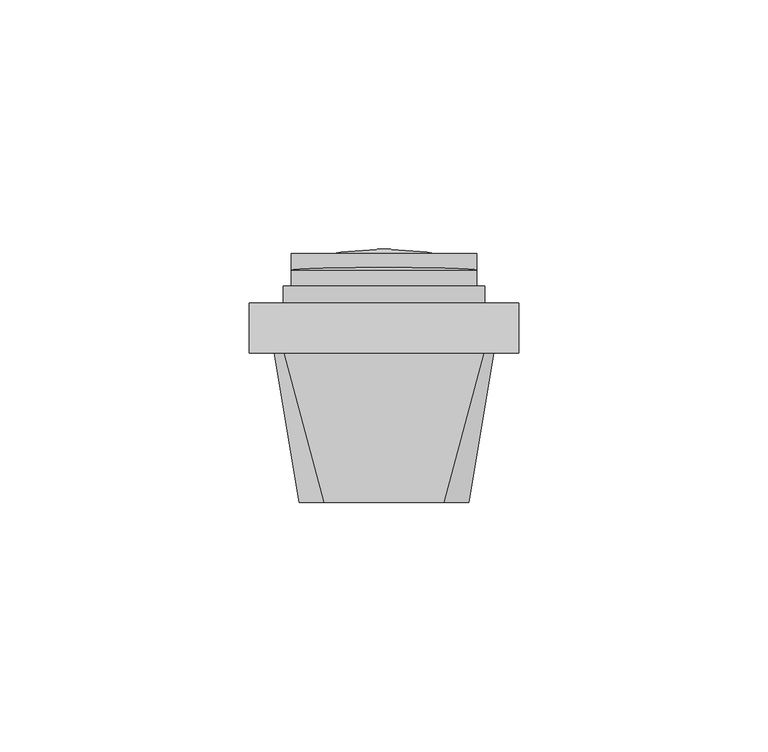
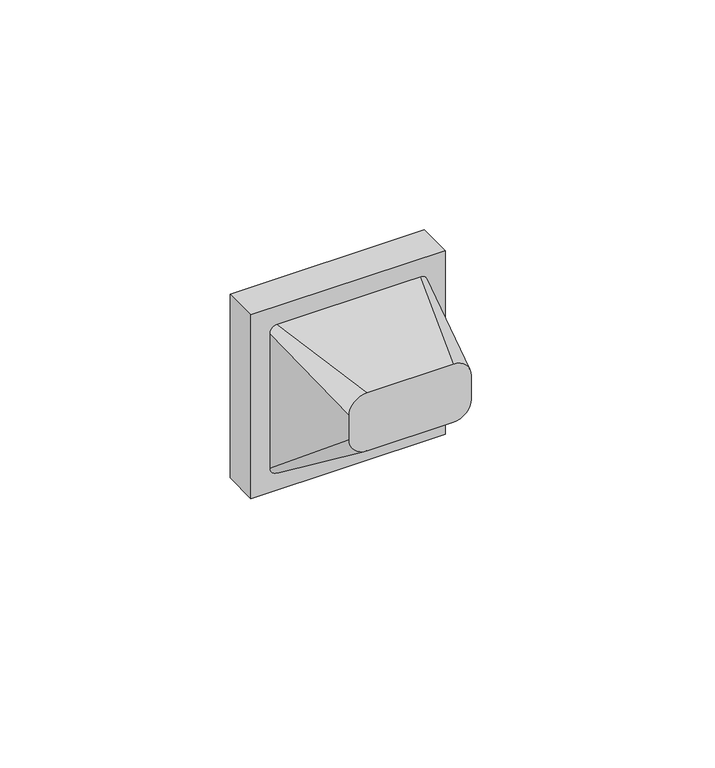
"""IFC4 building model written with IfcOpenShell, lengths in millimetres: proxy geometry, IEK_Brite_Механизм свето-терморегулятора : ВР_СС10-1-0-БрА."""

import ifcopenshell
import ifcopenshell.guid

model = None  # the IFC model being written
_history = None  # IfcOwnerHistory: only IFC2X3 demands one
_inside = {}  # id of a spatial element -> (the spatial element, [elements in it])
_under = {}  # id of a project, library or spatial element -> (it, [spatial elements below it])
_declared = {}  # id of a project -> (the project, [libraries it declares])
_typed = {}  # id of a type object -> (the type object, [elements of that type])
_made_of = {}  # id of a material, layer set ... -> (it, [elements and type objects made of it])


def new_model(schema):
    """Start an empty IFC model of exactly this schema.

    Asked for "IFC4X3", IfcOpenShell would pick the latest addendum, in which some entities
    have other attributes; the version numbers below select the first issue.
    IFC2X3 requires an IfcOwnerHistory on every rooted entity: one is made here for all.
    """
    global model, _history
    if schema == "IFC4X3":
        model = ifcopenshell.file(schema_version=(4, 3, 0, 0))
    else:
        model = ifcopenshell.file(schema=schema)
    _inside.clear()
    _under.clear()
    _declared.clear()
    _typed.clear()
    _made_of.clear()
    _history = None
    if model.schema == "IFC2X3":
        org = make("IfcOrganization", Name="unknown")
        user = make(
            "IfcPersonAndOrganization",
            ThePerson=make("IfcPerson", FamilyName="unknown"),
            TheOrganization=org,
        )
        app = make(
            "IfcApplication",
            ApplicationDeveloper=org,
            Version="unknown",
            ApplicationFullName="unknown",
            ApplicationIdentifier="unknown",
        )
        _history = make(
            "IfcOwnerHistory",
            OwningUser=user,
            OwningApplication=app,
            ChangeAction="ADDED",
            CreationDate=0,
        )
    return model


def make(cls, **values):
    """One entity of the class cls with the attributes given. An attribute that is None is left unset."""
    return model.create_entity(
        cls, **{name: value for name, value in values.items() if value is not None}
    )


def rooted(cls, **values):
    """An entity with a GlobalId (a new one), such as an element, a storey or a relation."""
    return make(cls, GlobalId=ifcopenshell.guid.new(), OwnerHistory=_history, **values)


def si_unit(unit_type, name, prefix=None):
    """IfcSIUnit, for example si_unit("LENGTHUNIT", "METRE", prefix="MILLI")."""
    return make("IfcSIUnit", UnitType=unit_type, Prefix=prefix, Name=name)


def assignment(units):
    """IfcUnitAssignment: the units of a project."""
    return None if units is None else make("IfcUnitAssignment", Units=units)


def point(xyz):
    """IfcCartesianPoint."""
    return None if xyz is None else make("IfcCartesianPoint", Coordinates=xyz)


def direction(xyz):
    """IfcDirection."""
    return None if xyz is None else make("IfcDirection", DirectionRatios=xyz)


def frame(location, z_axis=None, x_axis=None):
    """IfcAxis2Placement3D, a coordinate frame: its origin and axes. An axis left out is left unset."""
    return make(
        "IfcAxis2Placement3D",
        Location=point(location),
        Axis=direction(z_axis),
        RefDirection=direction(x_axis),
    )


def frame_2d(location, x_axis=None):
    """IfcAxis2Placement2D, a coordinate frame in the plane: its origin and x axis."""
    return make(
        "IfcAxis2Placement2D", Location=point(location), RefDirection=direction(x_axis)
    )


def origin():
    """The frame at (0, 0, 0) with its axes left unset."""
    return frame((0.0, 0.0, 0.0))


def place(relative_to, where):
    """IfcLocalPlacement: puts the frame where relative to a parent placement (None: the world)."""
    return make(
        "IfcLocalPlacement", PlacementRelTo=relative_to, RelativePlacement=where
    )


def context(
    kind, dimensions, precision=None, world=None, true_north=None, identifier=None
):
    """IfcGeometricRepresentationContext, for example the 3D "Model" context."""
    return make(
        "IfcGeometricRepresentationContext",
        ContextIdentifier=identifier,
        ContextType=kind,
        CoordinateSpaceDimension=dimensions,
        Precision=precision,
        WorldCoordinateSystem=world,
        TrueNorth=true_north,
    )


def project(units=None, contexts=None):
    """IfcProject with its units and contexts."""
    return rooted(
        "IfcProject",
        Name="project",
        RepresentationContexts=contexts,
        UnitsInContext=assignment(units),
    )


def spatial(cls, under=None, at=None, **own):
    """A site, building, storey or space (cls), placed at a placement, below another one or the project."""
    s = rooted(cls, ObjectPlacement=at, **own)
    if under is not None:
        _under.setdefault(under.id(), (under, []))[1].append(s)
    return s


def polyline(points):
    """IfcPolyline through the points."""
    return make("IfcPolyline", Points=[point(p) for p in points])


def circle_curve(where, radius):
    """IfcCircle in the frame where."""
    return make("IfcCircle", Position=where, Radius=radius)


def ellipse_curve(where, semi_axis1, semi_axis2):
    """IfcEllipse in the frame where."""
    return make(
        "IfcEllipse", Position=where, SemiAxis1=semi_axis1, SemiAxis2=semi_axis2
    )


def trimmed(basis, trim1, trim2, sense, master):
    """IfcTrimmedCurve: the piece of a basis curve between two trims."""
    return make(
        "IfcTrimmedCurve",
        BasisCurve=basis,
        Trim1=trim1,
        Trim2=trim2,
        SenseAgreement=sense,
        MasterRepresentation=master,
    )


def segment(curve, same_sense, transition):
    """IfcCompositeCurveSegment."""
    return make(
        "IfcCompositeCurveSegment",
        Transition=transition,
        SameSense=same_sense,
        ParentCurve=curve,
    )


def composite_curve(segments, self_intersect=None):
    """IfcCompositeCurve: segments joined end to end."""
    return make("IfcCompositeCurve", Segments=segments, SelfIntersect=self_intersect)


def outline(outer, holes=None, kind="AREA"):
    """IfcArbitraryClosedProfileDef: a profile drawn as a closed curve; with holes, ...WithVoids."""
    if holes is None:
        return make("IfcArbitraryClosedProfileDef", ProfileType=kind, OuterCurve=outer)
    return make(
        "IfcArbitraryProfileDefWithVoids",
        ProfileType=kind,
        OuterCurve=outer,
        InnerCurves=holes,
    )


def extrude(swept, where, along, depth):
    """IfcExtrudedAreaSolid: the profile swept, set in the frame where, extruded along a direction by depth."""
    return make(
        "IfcExtrudedAreaSolid",
        SweptArea=swept,
        Position=where,
        ExtrudedDirection=direction(along),
        Depth=depth,
    )


def shape(context_of_items, identifier, shape_type, items):
    """IfcShapeRepresentation: the items that make up one representation, for example the "Body"."""
    return make(
        "IfcShapeRepresentation",
        ContextOfItems=context_of_items,
        RepresentationIdentifier=identifier,
        RepresentationType=shape_type,
        Items=items,
    )


def source(mapping_origin, context_of_items, identifier, shape_type, items):
    """IfcRepresentationMap: a shape defined once, which mapped items show again and again."""
    return make(
        "IfcRepresentationMap",
        MappingOrigin=mapping_origin,
        MappedRepresentation=shape(context_of_items, identifier, shape_type, items),
    )


def transform(
    local_origin,
    x_axis=None,
    y_axis=None,
    z_axis=None,
    scale=None,
    scale2=None,
    scale3=None,
    uniform=True,
):
    """IfcCartesianTransformationOperator3D, or its non-uniform kind. x_axis, y_axis, z_axis: its Axis1, 2, 3."""
    if uniform:
        return make(
            "IfcCartesianTransformationOperator3D",
            Axis1=direction(x_axis),
            Axis2=direction(y_axis),
            LocalOrigin=point(local_origin),
            Scale=scale,
            Axis3=direction(z_axis),
        )
    return make(
        "IfcCartesianTransformationOperator3DnonUniform",
        Axis1=direction(x_axis),
        Axis2=direction(y_axis),
        LocalOrigin=point(local_origin),
        Scale=scale,
        Axis3=direction(z_axis),
        Scale2=scale2,
        Scale3=scale3,
    )


def mapped(mapping_source, mapping_target):
    """IfcMappedItem: shows the shape of a source again, moved by a transform."""
    return make(
        "IfcMappedItem", MappingSource=mapping_source, MappingTarget=mapping_target
    )


def made_of(thing, what):
    """Note that an element or type object is made of a material, layer set ...; save() writes the relation."""
    if what is not None:
        _made_of.setdefault(what.id(), (what, []))[1].append(thing)
    return thing


def element(
    cls,
    number,
    at=None,
    inside=None,
    cuts=None,
    type_object=None,
    material=None,
    context=None,
    identifier="Body",
    shape_type=None,
    held_by="IfcProductDefinitionShape",
    body=None,
    shapes=None,
    **own,
):
    """One element of the class cls, such as IfcWall. Its Tag is "e" and its number.

    at: its placement. inside: the storey or other place that contains it. cuts: it is an
    opening in that element (IfcRelVoidsElement). A single representation is given by context,
    identifier, shape_type and body (its items); several are given by shapes. held_by: the class
    of the entity that holds the representations. save() writes the other relations.
    """
    e = rooted(cls, Tag="e%d" % number, ObjectPlacement=at, **own)
    if body is not None:
        shapes = [shape(context, identifier, shape_type, body)]
    if shapes is not None:
        e.Representation = make(held_by, Representations=shapes)
    if inside is not None:
        _inside.setdefault(inside.id(), (inside, []))[1].append(e)
    if cuts is not None:
        rooted(
            "IfcRelVoidsElement", RelatingBuildingElement=cuts, RelatedOpeningElement=e
        )
    if type_object is not None:
        _typed.setdefault(type_object.id(), (type_object, []))[1].append(e)
    return made_of(e, material)


def aggregate(whole, parts):
    """IfcRelAggregates: a whole, such as a stair, and the parts it consists of."""
    return rooted("IfcRelAggregates", RelatingObject=whole, RelatedObjects=parts)


def save(model, path):
    """Write the relations noted so far, then the file.

    IfcRelAggregates (storeys below a building ...), IfcRelContainedInSpatialStructure (elements
    in a storey), IfcRelDefinesByType, IfcRelAssociatesMaterial and IfcRelDeclares: one each for
    every whole, place, type object, material and project.
    """
    for whole, parts in _under.values():
        aggregate(whole, parts)
    for where, things in _inside.values():
        rooted(
            "IfcRelContainedInSpatialStructure",
            RelatedElements=things,
            RelatingStructure=where,
        )
    for kind, things in _typed.values():
        rooted("IfcRelDefinesByType", RelatedObjects=things, RelatingType=kind)
    for what, things in _made_of.values():
        rooted("IfcRelAssociatesMaterial", RelatedObjects=things, RelatingMaterial=what)
    for by, libraries in _declared.values():
        rooted("IfcRelDeclares", RelatingContext=by, RelatedDefinitions=libraries)
    model.write(path)


def plane_surface(at):
    """IfcPlane: the flat surface through the origin of the frame at, square to its z axis."""
    return make("IfcPlane", Position=at)


def cylinder_surface(at, radius):
    """IfcCylindricalSurface: all points at the distance radius from the z axis of the frame at."""
    return make("IfcCylindricalSurface", Position=at, Radius=radius)


def revolved_surface(curve, axis_point, axis_direction):
    """IfcSurfaceOfRevolution: the curve turned about the line through axis_point along axis_direction."""
    return make(
        "IfcSurfaceOfRevolution",
        SweptCurve=make("IfcArbitraryOpenProfileDef", ProfileType="CURVE", Curve=curve),
        AxisPosition=make("IfcAxis1Placement", Location=point(axis_point), Axis=direction(axis_direction)),
    )


def spline_surface(u_degree, v_degree, points, u_multiplicities, v_multiplicities, u_knots, v_knots, weights=None):
    """IfcBSplineSurfaceWithKnots; with weights, IfcRationalBSplineSurfaceWithKnots. points: one row for each step in u."""
    own = dict(
        UDegree=u_degree,
        VDegree=v_degree,
        ControlPointsList=[[point(p) for p in row] for row in points],
        SurfaceForm="UNSPECIFIED",
        UClosed=False,
        VClosed=False,
        SelfIntersect=False,
        UMultiplicities=u_multiplicities,
        VMultiplicities=v_multiplicities,
        UKnots=u_knots,
        VKnots=v_knots,
        KnotSpec="UNSPECIFIED",
    )
    if weights is None:
        return make("IfcBSplineSurfaceWithKnots", **own)
    return make("IfcRationalBSplineSurfaceWithKnots", WeightsData=weights, **own)


def advanced_brep(points, edges, surfaces, faces):
    """IfcAdvancedBrep: a solid bounded by faces that lie on surfaces and meet in shared edges.

    An edge is (start, end): straight between two places in points (the first is 0);
    or (start, end, curve); or (start, end, curve, False) where it runs against its curve.
    A face is (place in surfaces, loops), or (place, loops, False) where it looks against
    its surface's normal. A loop lists edges by number (the first is 1), with a minus sign
    where the edge is run from its end to its start. The first loop is the outer one.
    """
    corners = [point(p) for p in points]
    vertices = [make("IfcVertexPoint", VertexGeometry=c) for c in corners]
    made = []
    for start, end, *more in edges:
        made.append(
            make(
                "IfcEdgeCurve",
                EdgeStart=vertices[start],
                EdgeEnd=vertices[end],
                EdgeGeometry=more[0] if more else make("IfcPolyline", Points=[corners[start], corners[end]]),
                SameSense=more[1] if len(more) > 1 else True,
            )
        )
    hull = []
    for where, loops, *sense in faces:
        bounds = []
        for j, loop in enumerate(loops):
            ring = [make("IfcOrientedEdge", EdgeElement=made[abs(k) - 1], Orientation=k > 0) for k in loop]
            bounds.append(
                make(
                    "IfcFaceOuterBound" if j == 0 else "IfcFaceBound",
                    Bound=make("IfcEdgeLoop", EdgeList=ring),
                    Orientation=True,
                )
            )
        hull.append(make("IfcAdvancedFace", Bounds=bounds, FaceSurface=surfaces[where], SameSense=sense[0] if sense else True))
    return make("IfcAdvancedBrep", Outer=make("IfcClosedShell", CfsFaces=hull))


def electrical_fixtures_df0d4698(model_context):
    return source(origin(), model_context, "Body", "SolidModel", [
        extrude(outline(composite_curve([segment(trimmed(circle_curve(frame_2d((0.0, 0.003319)), 17.0578704), [point((17.0578704, 0.003319))], [point((-17.0578704, 0.003319))], False, "CARTESIAN"), True, "CONTINUOUS"), segment(trimmed(circle_curve(frame_2d((0.0, 0.003319)), 17.0578704), [point((-17.0578704, 0.003319))], [point((17.0578704, 0.003319))], False, "CARTESIAN"), True, "CONTINUOUS")], self_intersect=False)), frame((0.0, 16.0217188, 0.0), z_axis=(0.0, 1.0, 0.0), x_axis=(0.0, 0.0, 1.0)), (0.0, 0.0, 1.0), 1.3778649),
        advanced_brep(
        [(0.0, 4.3439145, 0.0), (-18.6103946, 4.3439145, 0.0), (18.6103946, 4.3439145, 0.0), (17.0578708, 16.0217188, 0.0), (-17.0578708, 16.0217188, 0.0), (0.0, 16.0217188, 0.0), (17.0578708, 17.3995837, 0.0), (-17.0578708, 17.3995837, 0.0), (17.8535392, 17.3995837, 0.0), (-17.8535392, 17.3995837, 0.0), (18.6103946, 16.6427283, 0.0), (-18.6103946, 16.6427283, 0.0)],
        [
            (0, 1),
            (1, 2, circle_curve(frame((0.0, 4.3439145, 0.0), z_axis=(0.0, -1.0, 0.0), x_axis=(-1.0, 0.0, 0.0)), 18.6103946)),
            (2, 0),
            (2, 1, circle_curve(frame((0.0, 4.3439145, 0.0), z_axis=(0.0, -1.0, 0.0), x_axis=(-1.0, 0.0, 0.0)), 18.6103946)),
            (3, 4, circle_curve(frame((0.0, 16.0217188, 0.0), z_axis=(0.0, 1.0, 0.0), x_axis=(-1.0, 0.0, 0.0)), 17.0578708)),
            (4, 5),
            (5, 3),
            (4, 3, circle_curve(frame((0.0, 16.0217188, 0.0), z_axis=(0.0, 1.0, 0.0), x_axis=(-1.0, 0.0, 0.0)), 17.0578708)),
            (6, 7, circle_curve(frame((0.0, 17.3995837, 0.0), z_axis=(0.0, 1.0, 0.0), x_axis=(-1.0, 0.0, 0.0)), 17.0578708)),
            (7, 4),
            (3, 6),
            (7, 6, circle_curve(frame((0.0, 17.3995837, 0.0), z_axis=(0.0, 1.0, 0.0), x_axis=(-1.0, 0.0, 0.0)), 17.0578708)),
            (8, 9, circle_curve(frame((0.0, 17.3995837, 0.0), z_axis=(0.0, 1.0, 0.0), x_axis=(-1.0, 0.0, 0.0)), 17.8535392)),
            (9, 7),
            (6, 8),
            (9, 8, circle_curve(frame((0.0, 17.3995837, 0.0), z_axis=(0.0, 1.0, 0.0), x_axis=(-1.0, 0.0, 0.0)), 17.8535392)),
            (10, 11, circle_curve(frame((0.0, 16.6427283, 0.0), z_axis=(0.0, 1.0, 0.0), x_axis=(-1.0, 0.0, 0.0)), 18.6103946)),
            (11, 9),
            (8, 10),
            (11, 10, circle_curve(frame((0.0, 16.6427283, 0.0), z_axis=(0.0, 1.0, 0.0), x_axis=(-1.0, 0.0, 0.0)), 18.6103946)),
            (1, 11),
            (10, 2),
        ],
        [
            plane_surface(frame((0.0, 4.3439145, 0.0), z_axis=(0.0, -1.0, 0.0), x_axis=(-1.0, 0.0, 0.0))),
            plane_surface(frame((0.0, 16.0217188, 0.0), z_axis=(0.0, 1.0, 0.0), x_axis=(-1.0, 0.0, 0.0))),
            revolved_surface(polyline([(-17.0578708, 16.0217188, 0.0), (-17.0578708, 17.3995837, 0.0)]), (0.0, 19.2432057, 0.0), (0.0, -1.0, 0.0)),
            plane_surface(frame((0.0, 17.3995837, 0.0), z_axis=(0.0, 1.0, 0.0), x_axis=(-1.0, 0.0, 0.0))),
            revolved_surface(polyline([(-17.8535392, 17.3995837, 0.0), (-18.6103946, 16.6427283, 0.0)]), (0.0, 19.2432057, 0.0), (0.0, -1.0, 0.0)),
            cylinder_surface(frame((0.0, 19.2432057, 0.0), z_axis=(0.0, -1.0, 0.0), x_axis=(-1.0, 0.0, 0.0)), 18.6103946),
        ],
        [
            (0, [[1, 2, 3]]),
            (0, [[-3, 4, -1]]),
            (1, [[5, 6, 7]]),
            (1, [[8, -7, -6]]),
            (2, [[9, 10, -5, 11]]),
            (2, [[12, -11, -8, -10]]),
            (3, [[13, 14, -9, 15]]),
            (3, [[16, -15, -12, -14]]),
            (4, [[17, 18, -13, 19]]),
            (4, [[20, -19, -16, -18]]),
            (5, [[-2, 21, -17, 22]]),
            (5, [[-4, -22, -20, -21]]),
        ],
    ),
        advanced_brep(
        [(-27.0, 10.0, 27.0), (27.0, 10.0, 27.0), (27.0, 10.0, -27.0), (-27.0, 10.0, -27.0), (-19.3454313, 10.0, 0.0), (19.3454313, 10.0, 0.0), (-27.0, 0.0, 27.0), (-27.0, 0.0, -27.0), (27.0, 0.0, -27.0), (27.0, 0.0, 27.0), (19.3454313, 4.3439145, 0.0), (-19.3454313, 4.3439145, 0.0)],
        [
            (0, 1),
            (1, 2),
            (2, 3),
            (3, 0),
            (4, 5, circle_curve(frame((0.0, 10.0, 0.0), z_axis=(0.0, -1.0, 0.0), x_axis=(-1.0, 0.0, 0.0)), 19.3454313)),
            (5, 4, circle_curve(frame((0.0, 10.0, 0.0), z_axis=(0.0, -1.0, 0.0), x_axis=(-1.0, 0.0, 0.0)), 19.3454313)),
            (6, 7),
            (7, 8),
            (8, 9),
            (9, 6),
            (3, 7),
            (6, 0),
            (2, 8),
            (1, 9),
            (10, 11, circle_curve(frame((0.0, 4.3439145, 0.0), z_axis=(0.0, 1.0, 0.0), x_axis=(-1.0, 0.0, 0.0)), 19.3454313)),
            (11, 10, circle_curve(frame((0.0, 4.3439145, 0.0), z_axis=(0.0, 1.0, 0.0), x_axis=(-1.0, 0.0, 0.0)), 19.3454313)),
            (10, 5),
            (4, 11),
        ],
        [
            plane_surface(frame((-27.0, 10.0, -27.0), z_axis=(0.0, 1.0, 0.0), x_axis=(0.0, 0.0, 1.0))),
            plane_surface(frame((-27.0, 0.0, -27.0), z_axis=(0.0, -1.0, 0.0), x_axis=(0.0, 0.0, -1.0))),
            plane_surface(frame((-27.0, 0.0, 27.0), z_axis=(-1.0, 0.0, 0.0), x_axis=(0.0, 1.0, 0.0))),
            plane_surface(frame((-27.0, 0.0, -27.0), z_axis=(0.0, 0.0, -1.0), x_axis=(0.0, 1.0, 0.0))),
            plane_surface(frame((27.0, 0.0, -27.0), z_axis=(1.0, 0.0, 0.0), x_axis=(0.0, 1.0, 0.0))),
            plane_surface(frame((27.0, 0.0, 27.0), z_axis=(0.0, 0.0, 1.0), x_axis=(0.0, 1.0, 0.0))),
            plane_surface(frame((-19.3454313, 4.3439145, 0.0), z_axis=(0.0, 1.0, 0.0), x_axis=(0.0, 0.0, -1.0))),
            revolved_surface(polyline([(-19.3454313, 10.0, 0.0), (-19.3454313, 4.3439145, 0.0)]), (0.0, 4.3439145, 0.0), (0.0, 1.0, 0.0)),
        ],
        [
            (0, [[1, 2, 3, 4], [5, 6]]),
            (1, [[7, 8, 9, 10]]),
            (2, [[-4, 11, -7, 12]]),
            (3, [[-3, 13, -8, -11]]),
            (4, [[-2, 14, -9, -13]]),
            (5, [[-1, -12, -10, -14]]),
            (6, [[15, 16]]),
            (7, [[-15, 17, -5, 18]]),
            (7, [[-16, -18, -6, -17]]),
        ],
    ),
        advanced_brep(
        [(20.1579006, 13.4544349, 0.0), (-20.1579006, 13.4544349, 0.0), (-19.3454313, 13.4544349, 0.0), (19.3454313, 13.4544349, 0.0), (20.1579006, 10.0, 0.0), (-20.1579006, 10.0, 0.0), (19.3454313, 10.0, 0.0), (-19.3454313, 10.0, 0.0)],
        [
            (0, 1, circle_curve(frame((0.0, 13.4544349, 0.0), z_axis=(0.0, 1.0, 0.0), x_axis=(-1.0, 0.0, 0.0)), 20.1579006)),
            (1, 2),
            (2, 3, circle_curve(frame((0.0, 13.4544349, 0.0), z_axis=(0.0, -1.0, 0.0), x_axis=(-1.0, 0.0, 0.0)), 19.3454313)),
            (3, 0),
            (1, 0, circle_curve(frame((0.0, 13.4544349, 0.0), z_axis=(0.0, 1.0, 0.0), x_axis=(-1.0, 0.0, 0.0)), 20.1579006)),
            (3, 2, circle_curve(frame((0.0, 13.4544349, 0.0), z_axis=(0.0, -1.0, 0.0), x_axis=(-1.0, 0.0, 0.0)), 19.3454313)),
            (4, 5, circle_curve(frame((0.0, 10.0, 0.0), z_axis=(0.0, 1.0, 0.0), x_axis=(-1.0, 0.0, 0.0)), 20.1579006)),
            (5, 1),
            (0, 4),
            (5, 4, circle_curve(frame((0.0, 10.0, 0.0), z_axis=(0.0, 1.0, 0.0), x_axis=(-1.0, 0.0, 0.0)), 20.1579006)),
            (6, 7, circle_curve(frame((0.0, 10.0, 0.0), z_axis=(0.0, 1.0, 0.0), x_axis=(-1.0, 0.0, 0.0)), 19.3454313)),
            (7, 5),
            (4, 6),
            (7, 6, circle_curve(frame((0.0, 10.0, 0.0), z_axis=(0.0, 1.0, 0.0), x_axis=(-1.0, 0.0, 0.0)), 19.3454313)),
            (2, 7),
            (6, 3),
        ],
        [
            plane_surface(frame((0.0, 13.4544349, 0.0), z_axis=(0.0, 1.0, 0.0), x_axis=(-1.0, 0.0, 0.0))),
            cylinder_surface(frame((0.0, 21.4805096, 0.0), z_axis=(0.0, -1.0, 0.0), x_axis=(-1.0, 0.0, 0.0)), 20.1579006),
            plane_surface(frame((0.0, 10.0, 0.0), z_axis=(0.0, -1.0, 0.0), x_axis=(-1.0, 0.0, 0.0))),
            revolved_surface(polyline([(-19.3454313, 10.0, 0.0), (-19.3454313, 13.4544349, 0.0)]), (0.0, 21.4805096, 0.0), (0.0, -1.0, 0.0)),
        ],
        [
            (0, [[1, 2, 3, 4]]),
            (0, [[5, -4, 6, -2]]),
            (1, [[7, 8, -1, 9]]),
            (1, [[10, -9, -5, -8]]),
            (2, [[11, 12, -7, 13]]),
            (2, [[14, -13, -10, -12]]),
            (3, [[-3, 15, -11, 16]]),
            (3, [[-6, -16, -14, -15]]),
        ],
    ),
        advanced_brep(
        [(0.0, 4.3439145, 0.0), (-18.6103946, 4.3439145, 0.0), (18.6103946, 4.3439145, 0.0), (18.6103946, 19.8995837, 0.0), (-18.6103946, 19.8995837, 0.0), (-17.7859144, 19.8995837, 0.0), (17.7859144, 19.8995837, 0.0), (17.0578708, 18.5217188, 0.0), (-17.0578708, 18.5217188, 0.0), (0.0, 20.8213947, 0.0)],
        [
            (0, 1),
            (1, 2, circle_curve(frame((0.0, 4.3439145, 0.0), z_axis=(0.0, -1.0, 0.0), x_axis=(-1.0, 0.0, 0.0)), 18.6103946)),
            (2, 0),
            (2, 1, circle_curve(frame((0.0, 4.3439145, 0.0), z_axis=(0.0, -1.0, 0.0), x_axis=(-1.0, 0.0, 0.0)), 18.6103946)),
            (3, 4, circle_curve(frame((0.0, 19.8995837, 0.0), z_axis=(0.0, 1.0, 0.0), x_axis=(-1.0, 0.0, 0.0)), 18.6103946)),
            (4, 5),
            (5, 6, circle_curve(frame((0.0, 19.8995837, 0.0), z_axis=(0.0, -1.0, 0.0), x_axis=(-1.0, 0.0, 0.0)), 17.7859144)),
            (6, 3),
            (4, 3, circle_curve(frame((0.0, 19.8995837, 0.0), z_axis=(0.0, 1.0, 0.0), x_axis=(-1.0, 0.0, 0.0)), 18.6103946)),
            (6, 5, circle_curve(frame((0.0, 19.8995837, 0.0), z_axis=(0.0, -1.0, 0.0), x_axis=(-1.0, 0.0, 0.0)), 17.7859144)),
            (1, 4),
            (3, 2),
            (7, 8, circle_curve(frame((0.0, 18.5217188, 0.0), z_axis=(0.0, 1.0, 0.0), x_axis=(-1.0, 0.0, 0.0)), 17.0578708)),
            (8, 9, circle_curve(frame((0.0, -43.5919141, 0.0), z_axis=(0.0, 0.0, -1.0), x_axis=(1.0, 0.0, 0.0)), 64.4133088)),
            (9, 7, circle_curve(frame((0.0, -43.5919141, 0.0), z_axis=(0.0, 0.0, -1.0), x_axis=(-1.0, 0.0, 0.0)), 64.4133088)),
            (8, 7, circle_curve(frame((0.0, 18.5217188, 0.0), z_axis=(0.0, 1.0, 0.0), x_axis=(-1.0, 0.0, 0.0)), 17.0578708)),
            (5, 8),
            (7, 6),
        ],
        [
            plane_surface(frame((0.0, 4.3439145, 0.0), z_axis=(0.0, -1.0, 0.0), x_axis=(-1.0, 0.0, 0.0))),
            plane_surface(frame((0.0, 19.8995837, 0.0), z_axis=(0.0, 1.0, 0.0), x_axis=(-1.0, 0.0, 0.0))),
            cylinder_surface(frame((0.0, 21.7432057, 0.0), z_axis=(0.0, -1.0, 0.0), x_axis=(-1.0, 0.0, 0.0)), 18.6103946),
            revolved_surface(trimmed(ellipse_curve(frame((0.0, -43.5919141, 0.0), z_axis=(0.0, 0.0, 1.0), x_axis=(1.0, 0.0, 0.0)), 64.4133088, 64.4133088), [point((0.0, 20.8213947, 0.0))], [point((-17.0578708, 18.5217188, 0.0))], True, "CARTESIAN"), (0.0, 21.7432057, 0.0), (0.0, -1.0, 0.0)),
            revolved_surface(polyline([(-17.0578708, 18.5217188, 0.0), (-17.7859144, 19.8995837, 0.0)]), (0.0, 21.7432057, 0.0), (0.0, -1.0, 0.0)),
        ],
        [
            (0, [[1, 2, 3]]),
            (0, [[-3, 4, -1]]),
            (1, [[5, 6, 7, 8]]),
            (1, [[9, -8, 10, -6]]),
            (2, [[-2, 11, -5, 12]]),
            (2, [[-4, -12, -9, -11]]),
            (3, [[13, 14, 15]]),
            (3, [[16, -15, -14]]),
            (4, [[-7, 17, -13, 18]]),
            (4, [[-10, -18, -16, -17]]),
        ],
    ),
        advanced_brep(
        [(-12.0, -30.0, 17.0), (-17.0, -30.0, 12.0), (-17.0, -30.0, 5.0), (-12.0, -30.0, 0.0), (12.0, -30.0, 0.0), (17.0, -30.0, 5.0), (17.0, -30.0, 12.0), (12.0, -30.0, 17.0), (-20.0, 0.0, 22.0), (20.0, 0.0, 22.0), (22.0, 0.0, 20.0), (22.0, 0.0, -20.0), (20.0, 0.0, -22.0), (-20.0, 0.0, -22.0), (-22.0, 0.0, -20.0), (-22.0, 0.0, 20.0)],
        [
            (0, 1, circle_curve(frame((-12.0, -30.0, 12.0), z_axis=(0.0, -1.0, 0.0), x_axis=(1.0, 0.0, 0.0)), 5.0)),
            (1, 2),
            (2, 3, circle_curve(frame((-12.0, -30.0, 5.0), z_axis=(0.0, -1.0, 0.0), x_axis=(1.0, 0.0, 0.0)), 5.0)),
            (3, 4),
            (4, 5, circle_curve(frame((12.0, -30.0, 5.0), z_axis=(0.0, -1.0, 0.0), x_axis=(1.0, 0.0, 0.0)), 5.0)),
            (5, 6),
            (6, 7, circle_curve(frame((12.0, -30.0, 12.0), z_axis=(0.0, -1.0, 0.0), x_axis=(1.0, 0.0, 0.0)), 5.0)),
            (7, 0),
            (8, 9),
            (9, 10, circle_curve(frame((20.0, 0.0, 20.0), z_axis=(0.0, 1.0, 0.0), x_axis=(1.0, 0.0, 0.0)), 2.0)),
            (10, 11),
            (11, 12, circle_curve(frame((20.0, 0.0, -20.0), z_axis=(0.0, 1.0, 0.0), x_axis=(1.0, 0.0, 0.0)), 2.0)),
            (12, 13),
            (13, 14, circle_curve(frame((-20.0, 0.0, -20.0), z_axis=(0.0, 1.0, 0.0), x_axis=(1.0, 0.0, 0.0)), 2.0)),
            (14, 15),
            (15, 8, circle_curve(frame((-20.0, 0.0, 20.0), z_axis=(0.0, 1.0, 0.0), x_axis=(1.0, 0.0, 0.0)), 2.0)),
            (8, 0),
            (7, 9),
            (6, 10),
            (5, 11),
            (4, 12),
            (3, 13),
            (2, 14),
            (1, 15),
        ],
        [
            plane_surface(frame((0.0, -30.0, 8.5), z_axis=(0.0, -1.0, 0.0), x_axis=(-1.0, 0.0, 0.0))),
            plane_surface(frame((0.0, 0.0, 0.0), z_axis=(0.0, 1.0, 0.0), x_axis=(-1.0, 0.0, 0.0))),
            plane_surface(frame((0.0, 0.0, 22.0), z_axis=(0.0, -0.16439898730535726, 0.9863939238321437), x_axis=(-1.0, 0.0, 0.0))),
            spline_surface(2, 1, [[(22.0, 0.0, 20.0), (17.0, -30.0, 12.0)], [(22.0, 0.0, 22.0), (17.0, -30.0, 17.0)], [(20.0, 0.0, 22.0), (12.0, -30.0, 17.0)]], [3, 3], [2, 2], [0.0, 1.0], [0.0, 1.0], weights=[[1.0, 1.0], [0.7071067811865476, 0.7071067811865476], [1.0, 1.0]]),
            plane_surface(frame((22.0, 0.0, 0.0), z_axis=(0.9863939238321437, -0.1643989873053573, 0.0), x_axis=(0.0, 0.0, 1.0))),
            spline_surface(2, 1, [[(20.0, 0.0, -22.0), (12.0, -30.0, 0.0)], [(22.0, 0.0, -22.0), (17.0, -30.0, 0.0)], [(22.0, 0.0, -20.0), (17.0, -30.0, 5.0)]], [3, 3], [2, 2], [0.0, 1.0], [0.0, 1.0], weights=[[1.0, 1.0], [0.7071067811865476, 0.7071067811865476], [1.0, 1.0]]),
            plane_surface(frame((0.0, 0.0, -22.0), z_axis=(0.0, -0.591363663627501, -0.8064049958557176), x_axis=(1.0, 0.0, 0.0))),
            spline_surface(2, 1, [[(-22.0, 0.0, -20.0), (-17.0, -30.0, 5.0)], [(-22.0, 0.0, -22.0), (-17.0, -30.0, 0.0)], [(-20.0, 0.0, -22.0), (-12.0, -30.0, 0.0)]], [3, 3], [2, 2], [0.0, 1.0], [0.0, 1.0], weights=[[1.0, 1.0], [0.7071067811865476, 0.7071067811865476], [1.0, 1.0]]),
            plane_surface(frame((-22.0, 0.0, 0.0), z_axis=(-0.9863939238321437, -0.1643989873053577, 0.0), x_axis=(0.0, 0.0, -1.0))),
            spline_surface(2, 1, [[(-20.0, 0.0, 22.0), (-12.0, -30.0, 17.0)], [(-22.0, 0.0, 22.0), (-17.0, -30.0, 17.0)], [(-22.0, 0.0, 20.0), (-17.0, -30.0, 12.0)]], [3, 3], [2, 2], [0.0, 1.0], [0.0, 1.0], weights=[[1.0, 1.0], [0.7071067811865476, 0.7071067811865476], [1.0, 1.0]]),
        ],
        [
            (0, [[1, 2, 3, 4, 5, 6, 7, 8]]),
            (1, [[9, 10, 11, 12, 13, 14, 15, 16]]),
            (2, [[-9, 17, -8, 18]]),
            (3, [[-10, -18, -7, 19]]),
            (4, [[-11, -19, -6, 20]]),
            (5, [[-12, -20, -5, 21]]),
            (6, [[-13, -21, -4, 22]]),
            (7, [[-14, -22, -3, 23]]),
            (8, [[-15, -23, -2, 24]]),
            (9, [[-16, -24, -1, -17]]),
        ],
    ),
    ])


if __name__ == "__main__":
    model = new_model("IFC4")
    model_context = context("Model", 3, world=origin())
    ifc_project = project(units=[si_unit("LENGTHUNIT", "METRE", prefix="MILLI")], contexts=[model_context])
    site = spatial("IfcSite", under=ifc_project)
    building = spatial("IfcBuilding", under=site)
    placement = place(None, origin())
    electrical_fixtures_shape = electrical_fixtures_df0d4698(model_context)
    element("IfcBuildingElementProxy", 1, Name="IEK_Brite_Механизм свето-терморегулятора : ВР_СС10-1-0-БрА", ObjectType="IEK_Brite_Механизм свето-терморегулятора : ВР_СС10-1-0-БрА", at=placement, inside=building, context=model_context, shape_type="MappedRepresentation", body=[
        mapped(electrical_fixtures_shape, transform((0.0, 0.0, 0.0), x_axis=(1.0, 0.0, 0.0), y_axis=(0.0, 1.0, 0.0), z_axis=(0.0, 0.0, 1.0))),
    ])
    save(model, "model.ifc")
